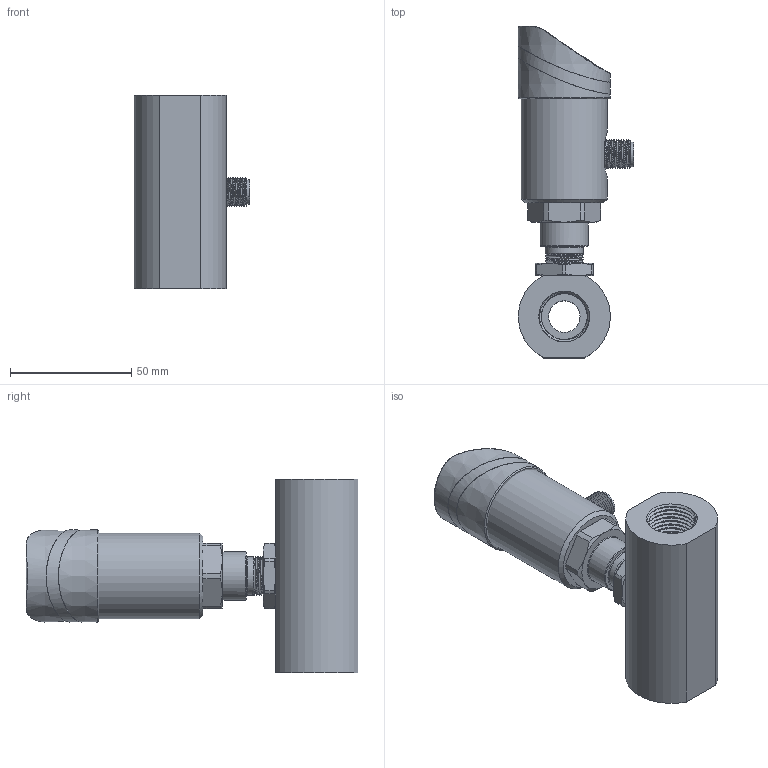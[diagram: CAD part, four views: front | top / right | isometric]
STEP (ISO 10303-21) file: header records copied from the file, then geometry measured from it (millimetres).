
FILE_DESCRIPTION( (''), '2;1');
FILE_NAME( 'QTKE_DN12_female-thread.step', '2024-10-15T09:05:45+08:00', (''), (''), '', '', '');
FILE_SCHEMA (('AUTOMOTIVE_DESIGN { 1 0 10303 214 3 1 1 1 }'));
Length unit declared in the file: millimetre
Products named in the file (1): QTKE DN12_female-thread
Bounding box: 47.7 x 137 x 80 mm (x, y, z)
Volume: 130720.8 mm3; surface area: 44883.2 mm2
Topology: 5 solids, 6 shells, 718 faces, 1864 edges, 1218 vertices
Faces by surface type: plane 267, extrusion 141, cylinder 134, cone 71, bspline 62, torus 32, sphere 11
Full cylindrical faces by diameter (mm): 1.689 x1, 2.7 x3, 12 x1, 13 x1, 15.9 x1, 16.5 x1, 17 x1, 20 x1, 21 x2, 23 x3, 26 x5, 35.5 x1, 37.001 x1
Entity records: 38738 total; most frequent: CARTESIAN_POINT 20891, ORIENTED_EDGE 3550, DIRECTION 2793, EDGE_CURVE 1775, VERTEX_POINT 1184, VECTOR 955, AXIS2_PLACEMENT_3D 919, EDGE_LOOP 839
